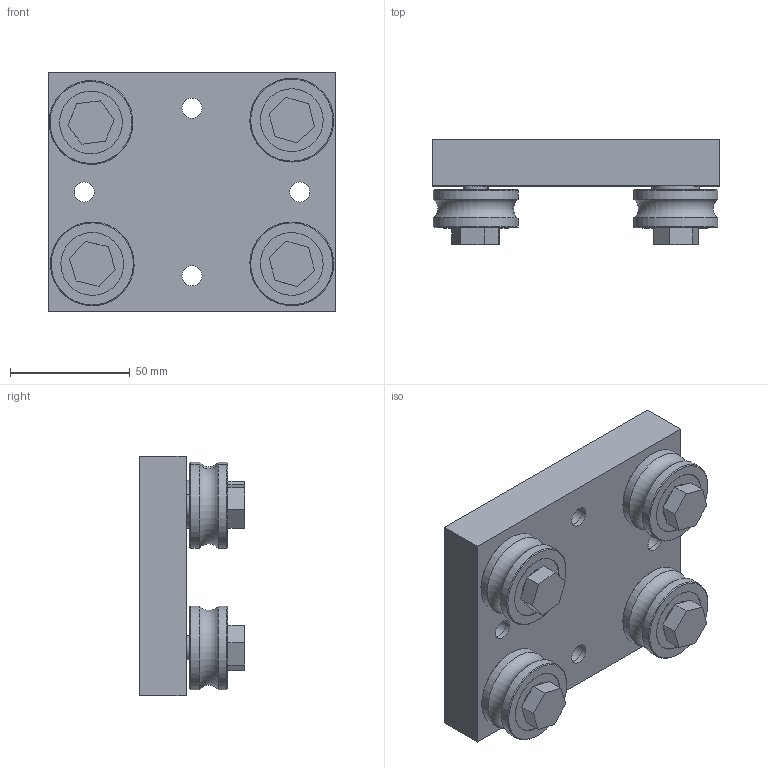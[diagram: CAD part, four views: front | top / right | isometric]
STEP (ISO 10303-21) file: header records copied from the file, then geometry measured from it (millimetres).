
FILE_DESCRIPTION(/* description */ ('Unknown'),/* implementation_level */ '2;1');
FILE_NAME(/* name */ 'Laufwagen_HLFL52-SF_mit_5201',/* time_stamp */ '2024-03-20T07:33:59+01:00',/* author */ ('Unknown'),/* organization */ ('Unknown'),/* preprocessor_version */ 'ST-DEVELOPER v16.7',/* originating_system */ 'Solid Edge',/* authorisation */ 'Unknown');
FILE_SCHEMA (('AUTOMOTIVE_DESIGN {1 0 10303 214 3 1 1}'));
Length unit declared in the file: millimetre
Products named in the file (5): Laufwagen_HLFL52-SF_mit_5201; Laufwagenplatte_20210204; inafag_lfz12; inafag_lfr5201-10-2z; Scheibe_Bolzen_zentrisch_20210205
Assembly tree (10 placements, depth 2):
  Laufwagen_HLFL52-SF_mit_5201
    Laufwagenplatte_20210204
    inafag_lfz12  x4
    inafag_lfr5201-10-2z  x4
    Scheibe_Bolzen_zentrisch_20210205
Bounding box: 120 x 43.9 x 100 mm (x, y, z)
Volume: 310512.3 mm3; surface area: 84456.2 mm2
Topology: 14 solids, 18 shells, 646 faces, 2023 edges, 1253 vertices
Faces by surface type: sphere 244, cylinder 174, plane 136, torus 76, cone 16
Full cylindrical faces by diameter (mm): 8 x8, 8.376 x8, 10 x4, 11 x1, 12 x8, 12.002 x4, 17.1 x16, 17.8 x12, 19.6 x8, 20 x1, 21 x4, 24.4 x8, 26.2 x20, 35 x8
Entity records: 5422 total; most frequent: CARTESIAN_POINT 1467, DIRECTION 604, ORIENTED_EDGE 596, EDGE_CURVE 298, AXIS2_PLACEMENT_3D 271, EDGE_LOOP 226, FACE_BOUND 226, VERTEX_POINT 224
